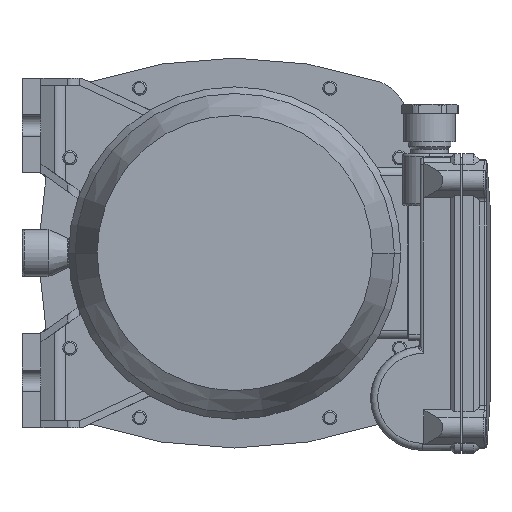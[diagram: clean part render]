
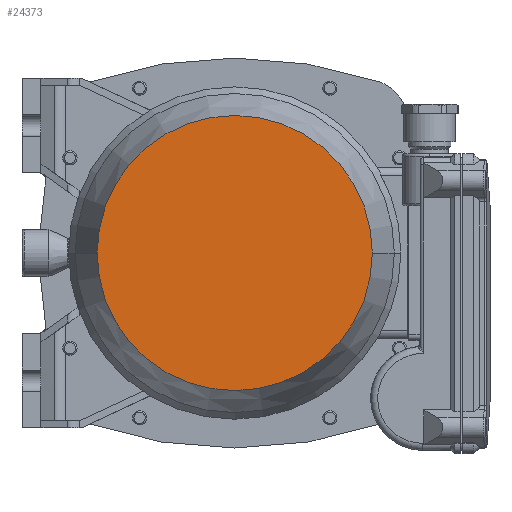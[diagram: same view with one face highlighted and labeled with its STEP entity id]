
A CAD part, front view. The second image highlights one B-rep face of the part: STEP entity #24373.
In plain terms, the highlighted planar face has unit normal (0, -1, 0) as drawn and (1, 0, 0) by its records, which use the part's own axes.
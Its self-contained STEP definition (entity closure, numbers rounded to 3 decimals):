
#18490=CARTESIAN_POINT('',(181.,0.,0.));
#18491=DIRECTION('',(-1.,0.,0.));
#18492=DIRECTION('',(0.,1.,0.));
#18493=AXIS2_PLACEMENT_3D('',#18490,#18491,#18492);
#18498=CARTESIAN_POINT('',(181.,0.,0.));
#18499=DIRECTION('',(1.,0.,0.));
#18500=DIRECTION('',(0.,1.,0.));
#18501=AXIS2_PLACEMENT_3D('',#18498,#18499,#18500);
#19777=CARTESIAN_POINT('',(181.,58.207,0.));
#19779=VERTEX_POINT('',#19777);
#19787=CARTESIAN_POINT('',(181.,-58.207,0.));
#19789=VERTEX_POINT('',#19787);
#24364=CARTESIAN_POINT('',(181.,0.,0.));
#24365=DIRECTION('',(1.,0.,0.));
#24366=DIRECTION('',(0.,-1.,0.));
#24367=AXIS2_PLACEMENT_3D('',#24364,#24365,#24366);
#24368=PLANE('',#24367);
#24369=ORIENTED_EDGE('',*,*,#24346,.T.);
#24370=ORIENTED_EDGE('',*,*,#24357,.F.);
#24371=EDGE_LOOP('',(#24369,#24370));
#24372=FACE_OUTER_BOUND('',#24371,.F.);
#18494=CIRCLE('',#18493,58.207);
#18502=CIRCLE('',#18501,58.207);
#24346=EDGE_CURVE('',#19779,#19789,#18494,.T.);
#24357=EDGE_CURVE('',#19779,#19789,#18502,.T.);
#24373=ADVANCED_FACE('',(#24372),#24368,.T.);
